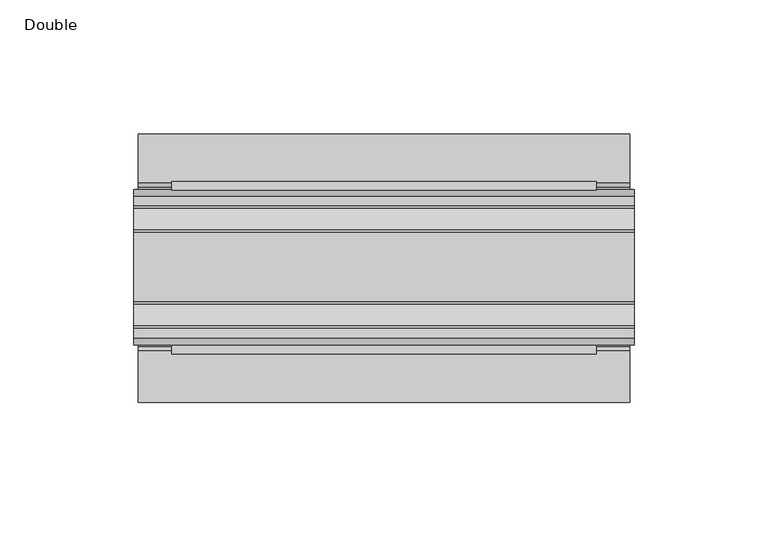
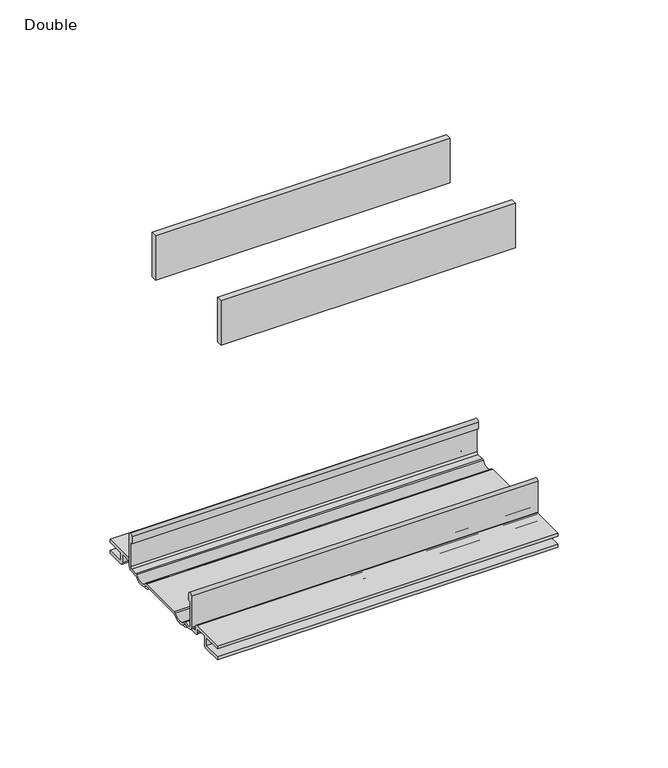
"""IFC4 building model written with IfcOpenShell, lengths in millimetres: proxy geometry, Frame-Teknion-FHCRA-Horizontal_Rail-R2022 : Double."""

from ifc_helpers import new_model, si_unit, point, frame, frame_2d, origin, place, context, project, spatial, polyline, circle_curve, trimmed, segment, composite_curve, outline, extrude, source, transform, mapped, element, save


def double_b4976647(model_context):
    return source(origin(), model_context, "Body", "SweptSolid", [
        extrude(outline(polyline([(79.3115091, -29.0068005), (79.3115091, -32.1817997), (-79.3115091, -32.1817997), (-79.3115091, -29.0068005), (79.3115091, -29.0068005)])), frame((0.0, 0.0, 149.8401622), z_axis=(0.0, 0.0, 1.0), x_axis=(1.0, 0.0, 0.0)), (0.0, 0.0, 1.0), 25.3999939),
        extrude(outline(polyline([(79.3115091, 32.1817997), (79.3115091, 29.0068005), (-79.3115091, 29.0068005), (-79.3115091, 32.1817997), (79.3115091, 32.1817997)])), frame((0.0, 0.0, 149.8401622), z_axis=(0.0, 0.0, 1.0), x_axis=(1.0, 0.0, 0.0)), (0.0, 0.0, 1.0), 25.3999939),
        extrude(outline(composite_curve([segment(polyline([(-28.8162961, -7.7516037), (-28.8162961, 9.8607558)]), True, "CONTINUOUS"), segment(trimmed(circle_curve(frame_2d((-27.5970982, 9.8607558)), 1.2191979), [point((-28.8162961, 9.8607558))], [point((-26.3779003, 9.8607558))], False, "CARTESIAN"), True, "CONTINUOUS"), segment(polyline([(-26.3779003, 9.8607558), (-26.3779003, 5.9999563), (-27.6580769, 5.9999563), (-27.6580769, -7.7516037)]), True, "CONTINUOUS"), segment(trimmed(circle_curve(frame_2d((-26.6420561, -7.7516037)), 1.0160208), [point((-27.6580769, -7.7516037))], [point((-26.6485732, -8.7676036))], True, "CARTESIAN"), True, "CONTINUOUS"), segment(polyline([(-26.6485732, -8.7676036), (-22.7056226, -8.7676036), (-21.7922609, -8.968753)]), True, "CONTINUOUS"), segment(trimmed(circle_curve(frame_2d((-17.7673021, -6.1259382)), 4.9276657), [point((-21.7922609, -8.968753))], [point((-13.7423434, -8.968753))], True, "CARTESIAN"), True, "CONTINUOUS"), segment(polyline([(-13.7423434, -8.968753), (-12.8289726, -8.7676036), (13.2099722, -8.7676036), (14.123343, -8.968753)]), True, "CONTINUOUS"), segment(trimmed(circle_curve(frame_2d((18.1483018, -6.1259382)), 4.9276657), [point((14.123343, -8.968753))], [point((22.1732605, -8.968753))], True, "CARTESIAN"), True, "CONTINUOUS"), segment(polyline([(22.1732605, -8.968753), (23.0866222, -8.7676036), (27.0295728, -8.7676036)]), True, "CONTINUOUS"), segment(trimmed(circle_curve(frame_2d((27.0230557, -7.7516037)), 1.0160208), [point((27.0295728, -8.7676036))], [point((28.0390765, -7.7516037))], True, "CARTESIAN"), True, "CONTINUOUS"), segment(polyline([(28.0390765, -7.7516037), (28.0390765, 5.9999563), (26.7588999, 5.9999563), (26.7588999, 9.8607558)]), True, "CONTINUOUS"), segment(trimmed(circle_curve(frame_2d((27.9780978, 9.8607558)), 1.2191979), [point((26.7588999, 9.8607558))], [point((29.1972958, 9.8607558))], False, "CARTESIAN"), True, "CONTINUOUS"), segment(polyline([(29.1972958, 9.8607558), (29.1972958, -7.7516037)]), True, "CONTINUOUS"), segment(trimmed(circle_curve(frame_2d((27.0230557, -7.7516037)), 2.17424), [point((29.1972958, -7.7516037))], [point((27.0230557, -9.9258438))], False, "CARTESIAN"), True, "CONTINUOUS"), segment(polyline([(27.0230557, -9.9258438), (22.732069, -9.9258438)]), True, "CONTINUOUS"), segment(trimmed(circle_curve(frame_2d((18.1516545, -6.4800016)), 5.7318431), [point((22.732069, -9.9258438))], [point((13.57124, -9.9258438))], False, "CARTESIAN"), True, "CONTINUOUS"), segment(polyline([(13.57124, -9.9258438), (-13.1902404, -9.9258438)]), True, "CONTINUOUS"), segment(trimmed(circle_curve(frame_2d((-17.7706549, -6.4800016)), 5.7318431), [point((-13.1902404, -9.9258438))], [point((-22.3510694, -9.9258438))], False, "CARTESIAN"), True, "CONTINUOUS"), segment(polyline([(-22.3510694, -9.9258438), (-26.6420561, -9.9258438)]), True, "CONTINUOUS"), segment(trimmed(circle_curve(frame_2d((-26.6420561, -7.7516037)), 2.17424), [point((-26.6420561, -9.9258438))], [point((-28.8162961, -7.7516037))], False, "CARTESIAN"), True, "CONTINUOUS")], self_intersect=False)), frame((-93.3704, 0.0, 0.0), z_axis=(1.0, 0.0, 0.0), x_axis=(0.0, 1.0, 0.0)), (0.0, 0.0, 1.0), 186.7408),
        extrude(outline(composite_curve([segment(polyline([(-50.2668422, -13.9898438), (-50.2240211, -12.3388438), (-39.7827507, -12.3388438), (-39.7827507, -7.766844), (-50.2240211, -7.766844), (-50.2668422, -6.1158439), (-31.1784975, -6.1158439)]), True, "CONTINUOUS"), segment(trimmed(circle_curve(frame_2d((-31.1784975, -7.6398436)), 1.5239997), [point((-31.1784975, -6.1158439))], [point((-29.6544978, -7.6398436))], False, "CARTESIAN"), True, "CONTINUOUS"), segment(polyline([(-29.6544978, -7.6398436), (-29.6544978, -9.9258438), (-23.1058344, -9.9258438)]), True, "CONTINUOUS"), segment(trimmed(circle_curve(frame_2d((-17.7673021, -5.2268471)), 7.1119966), [point((-23.1058344, -9.9258438))], [point((-12.4287699, -9.9258438))], True, "CARTESIAN"), True, "CONTINUOUS"), segment(polyline([(-12.4287699, -9.9258438), (12.8097695, -9.9258438)]), True, "CONTINUOUS"), segment(trimmed(circle_curve(frame_2d((18.1483018, -5.2268471)), 7.1119966), [point((12.8097695, -9.9258438))], [point((23.486834, -9.9258438))], True, "CARTESIAN"), True, "CONTINUOUS"), segment(polyline([(23.486834, -9.9258438), (30.0354975, -9.9258438), (30.0354975, -7.7656583)]), True, "CONTINUOUS"), segment(trimmed(circle_curve(frame_2d((31.6864982, -7.7656583)), 1.6510007), [point((30.0354975, -7.7656583))], [point((31.6239218, -6.1158439))], False, "CARTESIAN"), True, "CONTINUOUS"), segment(polyline([(31.6239218, -6.1158439), (50.00625, -6.1158439), (50.00625, -7.766844), (40.1637503, -7.766844), (40.1637503, -12.3388438), (50.00625, -12.3388438), (50.00625, -13.9898438), (40.0367518, -13.9898438)]), True, "CONTINUOUS"), segment(trimmed(circle_curve(frame_2d((40.0367518, -12.4658438)), 1.524), [point((40.0367518, -13.9898438))], [point((38.5127519, -12.4658438))], False, "CARTESIAN"), True, "CONTINUOUS"), segment(polyline([(38.5127519, -12.4658438), (38.5127519, -7.766844), (31.686497, -7.766844), (31.686497, -10.0528438)]), True, "CONTINUOUS"), segment(trimmed(circle_curve(frame_2d((30.1624971, -10.0528438)), 1.524), [point((31.686497, -10.0528438))], [point((30.1624971, -11.5768438))], False, "CARTESIAN"), True, "CONTINUOUS"), segment(polyline([(30.1624971, -11.5768438), (23.6563549, -11.5768438)]), True, "CONTINUOUS"), segment(trimmed(circle_curve(frame_2d((18.1483018, -6.4968436)), 7.4930002), [point((23.6563549, -11.5768438))], [point((12.8904968, -11.8354331))], False, "CARTESIAN"), True, "CONTINUOUS"), segment(polyline([(12.8904968, -11.8354331), (-12.5094972, -11.8354331)]), True, "CONTINUOUS"), segment(trimmed(circle_curve(frame_2d((-17.7673021, -6.4968436)), 7.4930002), [point((-12.5094972, -11.8354331))], [point((-23.2753553, -11.5768438))], False, "CARTESIAN"), True, "CONTINUOUS"), segment(polyline([(-23.2753553, -11.5768438), (-29.7814974, -11.5768438)]), True, "CONTINUOUS"), segment(trimmed(circle_curve(frame_2d((-29.7814974, -10.0528438)), 1.524), [point((-29.7814974, -11.5768438))], [point((-31.3054974, -10.0528438))], False, "CARTESIAN"), True, "CONTINUOUS"), segment(polyline([(-31.3054974, -10.0528438), (-31.3054974, -7.766844), (-38.1317522, -7.766844), (-38.1317522, -12.4658438)]), True, "CONTINUOUS"), segment(trimmed(circle_curve(frame_2d((-39.6557522, -12.4658438)), 1.524), [point((-38.1317522, -12.4658438))], [point((-39.6557522, -13.9898438))], False, "CARTESIAN"), True, "CONTINUOUS"), segment(polyline([(-39.6557522, -13.9898438), (-50.2668422, -13.9898438)]), True, "CONTINUOUS")], self_intersect=False)), frame((-91.7194, 0.0, 0.0), z_axis=(1.0, 0.0, 0.0), x_axis=(0.0, 1.0, 0.0)), (0.0, 0.0, 1.0), 183.4388),
    ])


if __name__ == "__main__":
    model = new_model("IFC4")
    model_context = context("Model", 3, world=origin())
    ifc_project = project(units=[si_unit("LENGTHUNIT", "METRE", prefix="MILLI")], contexts=[model_context])
    site = spatial("IfcSite", under=ifc_project)
    building = spatial("IfcBuilding", under=site)
    placement = place(None, origin())
    double_shape = double_b4976647(model_context)
    element("IfcBuildingElementProxy", 1, Name="Frame-Teknion-FHCRA-Horizontal_Rail-R2022 : Double", ObjectType="Frame-Teknion-FHCRA-Horizontal_Rail-R2022 : Double", at=placement, inside=building, context=model_context, shape_type="MappedRepresentation", body=[
        mapped(double_shape, transform((0.0, 0.0, 0.0), x_axis=(1.0, 0.0, 0.0), y_axis=(0.0, 1.0, 0.0), z_axis=(0.0, 0.0, 1.0))),
    ])
    save(model, "model.ifc")
